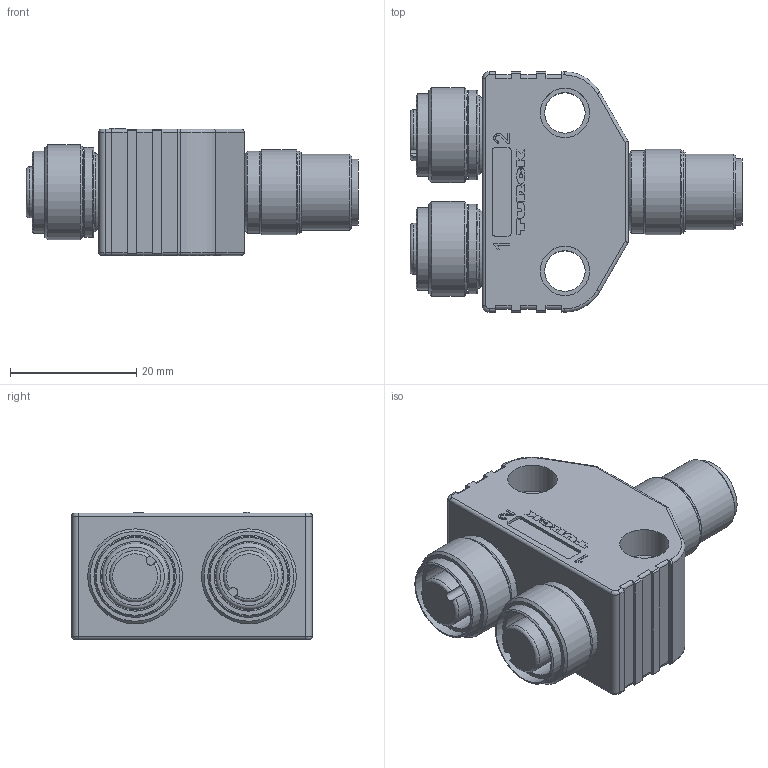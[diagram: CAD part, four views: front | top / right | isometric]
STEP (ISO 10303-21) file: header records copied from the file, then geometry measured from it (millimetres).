
FILE_DESCRIPTION((''),'2;1');
FILE_NAME('C:\TurckZip\MFGD0035-VB2-FSM-2FKM.stp','2007-05-15T09:47:58',('IKOROL'),(''),'Autodesk Inventor 11','Autodesk Inventor 11','');
FILE_SCHEMA(('AUTOMOTIVE_DESIGN { 1 0 10303 214 1 1 1 1 }'));
Length unit declared in the file: millimetre
Products named in the file (1): MFGD0035-VB2-FSM-2FKM
Bounding box: 52.5 x 38 x 20.1 mm (x, y, z)
Volume: 270.5 mm3; surface area: 9519.2 mm2
Topology: 1 solids, 2 shells, 447 faces, 1212 edges, 787 vertices
Faces by surface type: plane 286, cylinder 95, torus 27, bspline 26, cone 13
Full cylindrical faces by diameter (mm): 1.8 x2, 6.4 x2, 7.8 x2, 8 x1, 8.3 x1, 9.4 x1, 9.6 x2, 9.8 x2, 9.9 x1, 10 x1, 10.433 x2, 10.5 x1, 11 x2, 12 x1, 12.3 x2, 12.5 x2, 13 x4, 13.5 x1, 14.2 x2, 15 x2
Entity records: 14265 total; most frequent: CARTESIAN_POINT 3368, ORIENTED_EDGE 2252, DIRECTION 2145, EDGE_CURVE 1126, VECTOR 797, LINE 797, VERTEX_POINT 765, AXIS2_PLACEMENT_3D 674
